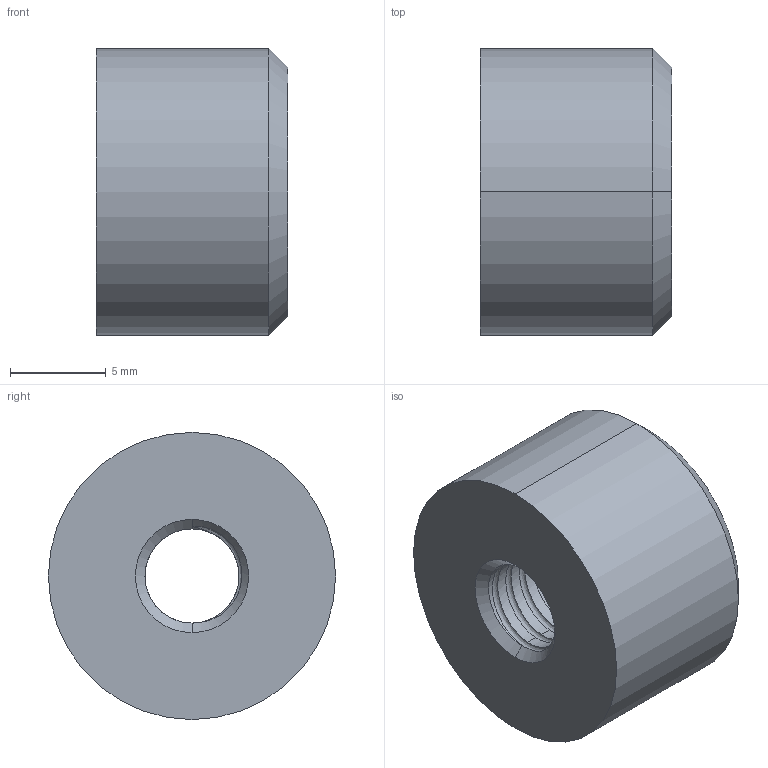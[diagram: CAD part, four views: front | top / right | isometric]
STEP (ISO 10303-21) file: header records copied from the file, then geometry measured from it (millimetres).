
FILE_DESCRIPTION (( 'STEP AP203' ), '1' );
FILE_NAME ('KD-208-2.STEP', '2009-08-13T08:42:29', ( 'kj06' ), ( 'kongjin' ), 'SwSTEP 2.0', 'SolidWorks 2007', '' );
FILE_SCHEMA (( 'CONFIG_CONTROL_DESIGN' ));
Length unit declared in the file: millimetre
Products named in the file (1): KD-208-2
Bounding box: 10 x 15 x 15 mm (x, y, z)
Volume: 1536.1 mm3; surface area: 930.2 mm2
Topology: 1 solids, 1 shells, 32 faces, 84 edges, 54 vertices
Faces by surface type: cylinder 22, cone 7, plane 2, bspline 1
Entity records: 2329 total; most frequent: CARTESIAN_POINT 1563, ORIENTED_EDGE 168, DIRECTION 124, EDGE_CURVE 84, VERTEX_POINT 54, AXIS2_PLACEMENT_3D 48, EDGE_LOOP 34, FACE_OUTER_BOUND 32
